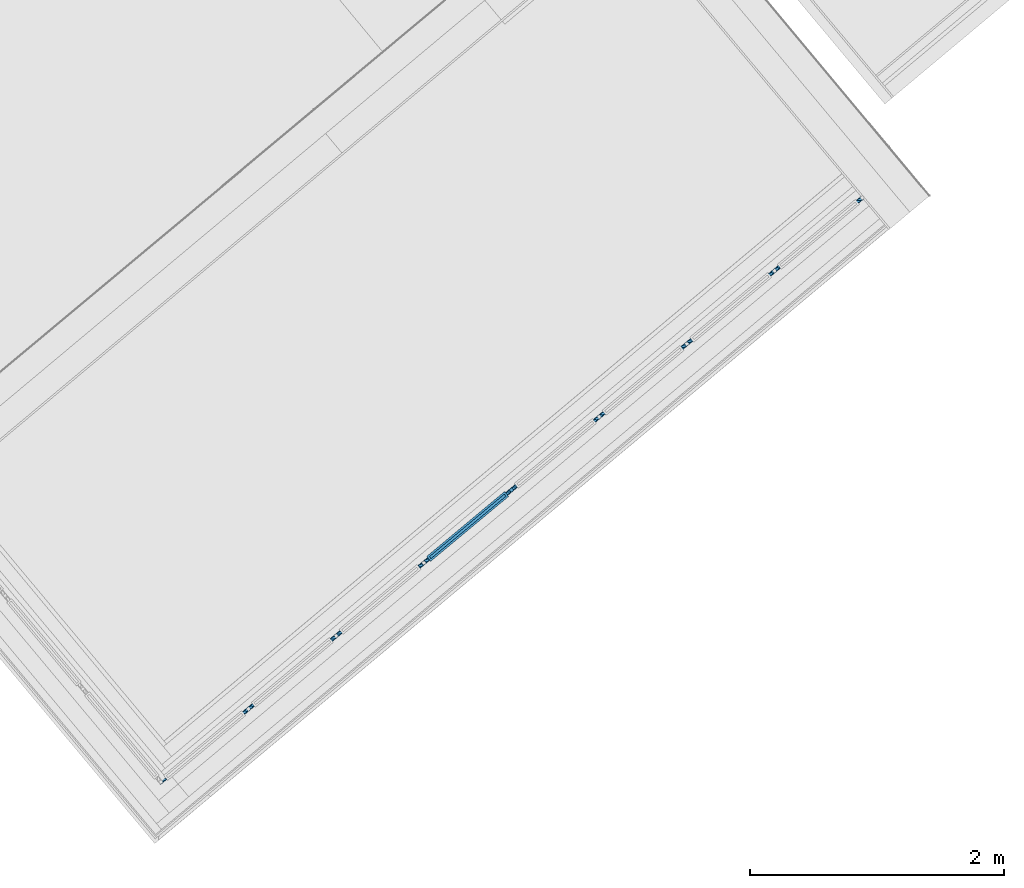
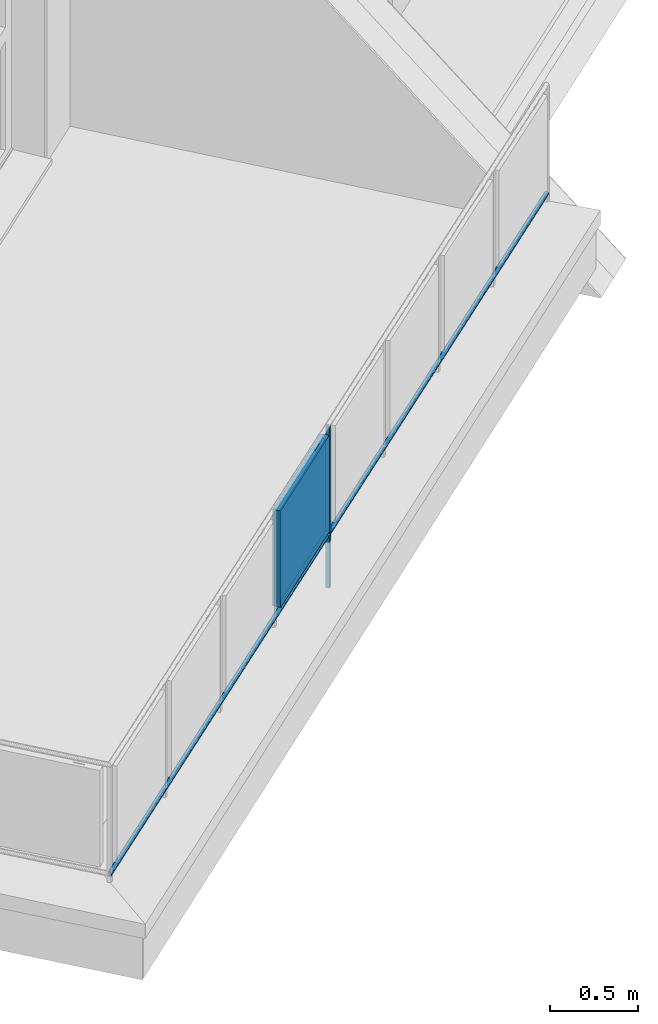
# One storey, part 15 of 50: 4 building element parts, 1 element without a shape of its own.
"""IFC4 building model written with IfcOpenShell, lengths in metres."""

import ifcopenshell
import ifcopenshell.guid

model = None  # the IFC model being written
_history = None  # IfcOwnerHistory: only IFC2X3 demands one
_inside = {}  # id of a spatial element -> (the spatial element, [elements in it])
_under = {}  # id of a project, library or spatial element -> (it, [spatial elements below it])
_declared = {}  # id of a project -> (the project, [libraries it declares])
_typed = {}  # id of a type object -> (the type object, [elements of that type])
_made_of = {}  # id of a material, layer set ... -> (it, [elements and type objects made of it])


def new_model(schema):
    """Start an empty IFC model of exactly this schema.

    Asked for "IFC4X3", IfcOpenShell would pick the latest addendum, in which some entities
    have other attributes; the version numbers below select the first issue.
    IFC2X3 requires an IfcOwnerHistory on every rooted entity: one is made here for all.
    """
    global model, _history
    if schema == "IFC4X3":
        model = ifcopenshell.file(schema_version=(4, 3, 0, 0))
    else:
        model = ifcopenshell.file(schema=schema)
    _inside.clear()
    _under.clear()
    _declared.clear()
    _typed.clear()
    _made_of.clear()
    _history = None
    if model.schema == "IFC2X3":
        org = make("IfcOrganization", Name="unknown")
        user = make(
            "IfcPersonAndOrganization",
            ThePerson=make("IfcPerson", FamilyName="unknown"),
            TheOrganization=org,
        )
        app = make(
            "IfcApplication",
            ApplicationDeveloper=org,
            Version="unknown",
            ApplicationFullName="unknown",
            ApplicationIdentifier="unknown",
        )
        _history = make(
            "IfcOwnerHistory",
            OwningUser=user,
            OwningApplication=app,
            ChangeAction="ADDED",
            CreationDate=0,
        )
    return model


def make(cls, **values):
    """One entity of the class cls with the attributes given. An attribute that is None is left unset."""
    return model.create_entity(
        cls, **{name: value for name, value in values.items() if value is not None}
    )


def entity(cls, *values):
    """Any entity or typed value of the class cls, its attributes in the order of the schema. None: left unset."""
    e = model.create_entity(cls)
    for i, value in enumerate(values):
        if value is not None:
            e[i] = value
    return e


def rooted(cls, **values):
    """An entity with a GlobalId (a new one), such as an element, a storey or a relation."""
    return make(cls, GlobalId=ifcopenshell.guid.new(), OwnerHistory=_history, **values)


def si_unit(unit_type, name, prefix=None):
    """IfcSIUnit, for example si_unit("LENGTHUNIT", "METRE", prefix="MILLI")."""
    return make("IfcSIUnit", UnitType=unit_type, Prefix=prefix, Name=name)


def converted_unit(unit_type, name, factor, base, dimensions=None, offset=None):
    """IfcConversionBasedUnit, such as the inch: factor (a typed value) times the base unit."""
    return make(
        "IfcConversionBasedUnit"
        if offset is None
        else "IfcConversionBasedUnitWithOffset",
        ConversionOffset=offset,
        Dimensions=None
        if dimensions is None
        else entity("IfcDimensionalExponents", *dimensions),
        UnitType=unit_type,
        Name=name,
        ConversionFactor=make(
            "IfcMeasureWithUnit", ValueComponent=factor, UnitComponent=base
        ),
    )


def derived_unit(unit_type, elements):
    """IfcDerivedUnit: a product of units, each with its exponent."""
    return make(
        "IfcDerivedUnit",
        Elements=[
            make("IfcDerivedUnitElement", Unit=unit, Exponent=power)
            for unit, power in elements
        ],
        UnitType=unit_type,
    )


def assignment(units):
    """IfcUnitAssignment: the units of a project."""
    return None if units is None else make("IfcUnitAssignment", Units=units)


def point(xyz):
    """IfcCartesianPoint."""
    return None if xyz is None else make("IfcCartesianPoint", Coordinates=xyz)


def direction(xyz):
    """IfcDirection."""
    return None if xyz is None else make("IfcDirection", DirectionRatios=xyz)


def frame(location, z_axis=None, x_axis=None):
    """IfcAxis2Placement3D, a coordinate frame: its origin and axes. An axis left out is left unset."""
    return make(
        "IfcAxis2Placement3D",
        Location=point(location),
        Axis=direction(z_axis),
        RefDirection=direction(x_axis),
    )


def origin_with_axes():
    """The frame at (0, 0, 0) with the z axis (0, 0, 1) and the x axis (1, 0, 0) written out."""
    return frame((0.0, 0.0, 0.0), z_axis=(0.0, 0.0, 1.0), x_axis=(1.0, 0.0, 0.0))


def place(relative_to, where):
    """IfcLocalPlacement: puts the frame where relative to a parent placement (None: the world)."""
    return make(
        "IfcLocalPlacement", PlacementRelTo=relative_to, RelativePlacement=where
    )


def context(
    kind, dimensions, precision=None, world=None, true_north=None, identifier=None
):
    """IfcGeometricRepresentationContext, for example the 3D "Model" context."""
    return make(
        "IfcGeometricRepresentationContext",
        ContextIdentifier=identifier,
        ContextType=kind,
        CoordinateSpaceDimension=dimensions,
        Precision=precision,
        WorldCoordinateSystem=world,
        TrueNorth=true_north,
    )


def subcontext(parent, identifier, kind, view, scale=None):
    """IfcGeometricRepresentationSubContext, for example "Body" below "Model"."""
    return make(
        "IfcGeometricRepresentationSubContext",
        ContextIdentifier=identifier,
        ContextType=kind,
        ParentContext=parent,
        TargetScale=scale,
        TargetView=view,
    )


def project(units=None, contexts=None):
    """IfcProject with its units and contexts."""
    return rooted(
        "IfcProject",
        Name="project",
        RepresentationContexts=contexts,
        UnitsInContext=assignment(units),
    )


def spatial(cls, under=None, at=None, **own):
    """A site, building, storey or space (cls), placed at a placement, below another one or the project."""
    s = rooted(cls, ObjectPlacement=at, **own)
    if under is not None:
        _under.setdefault(under.id(), (under, []))[1].append(s)
    return s


def point_list(points):
    """IfcCartesianPointList2D or 3D."""
    cls = (
        "IfcCartesianPointList2D" if len(points[0]) == 2 else "IfcCartesianPointList3D"
    )
    return make(cls, CoordList=points)


def polygons(points, faces, closed=None, point_numbers=None):
    """IfcPolygonalFaceSet: a face is its outer loop, then its inner loops; points numbered from 1."""
    made = []
    for loops in faces:
        if len(loops) == 1:
            made.append(make("IfcIndexedPolygonalFace", CoordIndex=loops[0]))
        else:
            made.append(
                make(
                    "IfcIndexedPolygonalFaceWithVoids",
                    CoordIndex=loops[0],
                    InnerCoordIndices=loops[1:],
                )
            )
    return make(
        "IfcPolygonalFaceSet",
        Coordinates=point_list(points),
        Closed=closed,
        Faces=made,
        PnIndex=point_numbers,
    )


def shape(context_of_items, identifier, shape_type, items):
    """IfcShapeRepresentation: the items that make up one representation, for example the "Body"."""
    return make(
        "IfcShapeRepresentation",
        ContextOfItems=context_of_items,
        RepresentationIdentifier=identifier,
        RepresentationType=shape_type,
        Items=items,
    )


def material(Name=None, Category=None):
    """IfcMaterial."""
    return make("IfcMaterial", Name=Name, Category=Category)


def made_of(thing, what):
    """Note that an element or type object is made of a material, layer set ...; save() writes the relation."""
    if what is not None:
        _made_of.setdefault(what.id(), (what, []))[1].append(thing)
    return thing


def type_object(cls, material=None, **own):
    """A type object (cls), such as IfcWallType, which elements share."""
    return made_of(rooted(cls, **own), material)


def element(
    cls,
    number,
    at=None,
    inside=None,
    cuts=None,
    type_object=None,
    material=None,
    context=None,
    identifier="Body",
    shape_type=None,
    held_by="IfcProductDefinitionShape",
    body=None,
    shapes=None,
    **own,
):
    """One element of the class cls, such as IfcWall. Its Tag is "e" and its number.

    at: its placement. inside: the storey or other place that contains it. cuts: it is an
    opening in that element (IfcRelVoidsElement). A single representation is given by context,
    identifier, shape_type and body (its items); several are given by shapes. held_by: the class
    of the entity that holds the representations. save() writes the other relations.
    """
    e = rooted(cls, Tag="e%d" % number, ObjectPlacement=at, **own)
    if body is not None:
        shapes = [shape(context, identifier, shape_type, body)]
    if shapes is not None:
        e.Representation = make(held_by, Representations=shapes)
    if inside is not None:
        _inside.setdefault(inside.id(), (inside, []))[1].append(e)
    if cuts is not None:
        rooted(
            "IfcRelVoidsElement", RelatingBuildingElement=cuts, RelatedOpeningElement=e
        )
    if type_object is not None:
        _typed.setdefault(type_object.id(), (type_object, []))[1].append(e)
    return made_of(e, material)


def aggregate(whole, parts):
    """IfcRelAggregates: a whole, such as a stair, and the parts it consists of."""
    return rooted("IfcRelAggregates", RelatingObject=whole, RelatedObjects=parts)


def save(model, path):
    """Write the relations noted so far, then the file.

    IfcRelAggregates (storeys below a building ...), IfcRelContainedInSpatialStructure (elements
    in a storey), IfcRelDefinesByType, IfcRelAssociatesMaterial and IfcRelDeclares: one each for
    every whole, place, type object, material and project.
    """
    for whole, parts in _under.values():
        aggregate(whole, parts)
    for where, things in _inside.values():
        rooted(
            "IfcRelContainedInSpatialStructure",
            RelatedElements=things,
            RelatingStructure=where,
        )
    for kind, things in _typed.values():
        rooted("IfcRelDefinesByType", RelatedObjects=things, RelatingType=kind)
    for what, things in _made_of.values():
        rooted("IfcRelAssociatesMaterial", RelatedObjects=things, RelatingMaterial=what)
    for by, libraries in _declared.values():
        rooted("IfcRelDeclares", RelatingContext=by, RelatedDefinitions=libraries)
    model.write(path)


model = new_model("IFC4")

# Units and contexts
model_context = context("Model", 3, precision=1e-05, world=origin_with_axes(), true_north=direction((0.0, 1.0)))
body_context = subcontext(model_context, "Body", "Model", "MODEL_VIEW")
ifc_project = project(units=[si_unit("LENGTHUNIT", "METRE"), si_unit("AREAUNIT", "SQUARE_METRE"), si_unit("VOLUMEUNIT", "CUBIC_METRE"), converted_unit("PLANEANGLEUNIT", "DEGREE", entity("IfcPlaneAngleMeasure", 0.0174532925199), si_unit("PLANEANGLEUNIT", "RADIAN"), dimensions=[0, 0, 0, 0, 0, 0, 0]), converted_unit("TIMEUNIT", "Year", entity("IfcTimeMeasure", 31556926.0), si_unit("TIMEUNIT", "SECOND"), dimensions=[0, 0, 1, 0, 0, 0, 0]), si_unit("MASSUNIT", "GRAM", prefix="KILO"), si_unit("THERMODYNAMICTEMPERATUREUNIT", "DEGREE_CELSIUS"), si_unit("LUMINOUSINTENSITYUNIT", "LUMEN"), si_unit("ENERGYUNIT", "JOULE", prefix="MEGA"), derived_unit("THERMALCONDUCTANCEUNIT", [(si_unit("POWERUNIT", "WATT"), 1), (si_unit("LENGTHUNIT", "METRE"), -1), (si_unit("THERMODYNAMICTEMPERATUREUNIT", "KELVIN"), -1)]), derived_unit("SPECIFICHEATCAPACITYUNIT", [(si_unit("ENERGYUNIT", "JOULE"), 1), (si_unit("MASSUNIT", "GRAM", prefix="KILO"), -1), (si_unit("THERMODYNAMICTEMPERATUREUNIT", "KELVIN"), -1)]), derived_unit("MASSDENSITYUNIT", [(si_unit("MASSUNIT", "GRAM", prefix="KILO"), 1), (si_unit("VOLUMEUNIT", "CUBIC_METRE"), -1)])], contexts=[model_context])

# Site, building, storey, space
site_placement = place(None, frame((-0.00153261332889, -0.00661245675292, 0.0), z_axis=(0.0, 0.0, 1.0), x_axis=(1.0, 0.0, 0.0)))
site = spatial("IfcSite", under=ifc_project, at=site_placement, Name="Gelände", CompositionType="ELEMENT")
building_placement = place(site_placement, origin_with_axes())
building = spatial("IfcBuilding", under=site, at=building_placement, Name="Gebäude", CompositionType="ELEMENT")
storey_placement = place(building_placement, frame((0.0, 0.0, 8.66), z_axis=(0.0, 0.0, 1.0), x_axis=(1.0, 0.0, 0.0)))
storey = spatial("IfcBuildingStorey", under=building, at=storey_placement, Name="DG2", CompositionType="ELEMENT", Elevation=8.66)
space_placement = place(storey_placement, frame((2.45868563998, 17.3922711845, 0.22), z_axis=(0.0, 0.0, 1.0), x_axis=(-0.766948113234, -0.641709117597, 0.0)))
space = spatial("IfcSpace", under=storey, at=space_placement, CompositionType="ELEMENT", PredefinedType="NOTDEFINED")

# Railing, building element parts
railing_type = type_object("IfcRailingType", Name="Geländerart", PredefinedType="NOTDEFINED")
railing_placement = place(space_placement, frame((7.13717596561, 0.00077071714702, 0.16), z_axis=(0.0, 0.0, 1.0), x_axis=(-0.766948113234, 0.641709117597, 0.0)))
railing = element("IfcRailing", 1, at=railing_placement, inside=space, type_object=railing_type, Name="Geländer - 001", PredefinedType="NOTDEFINED")
ifc_material_1 = material(Name="Aluminium")
building_element_part_1_placement = place(railing_placement, origin_with_axes())
building_element_part_1 = element("IfcBuildingElementPart", 2, at=building_element_part_1_placement, material=ifc_material_1, Name="Aluminium", PredefinedType="NOTDEFINED", context=body_context, shape_type="Tessellation", body=[
    polygons([(1.80279568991, -2.21040989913, 0.07), (1.80276676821, -2.21073055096, 0.072604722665), (7.31327435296, 2.37859456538, 0.072604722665), (7.31312851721, 2.37876967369, 0.07), (1.80276676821, -2.21073055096, 0.067395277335), (1.80268088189, -2.21168276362, 0.0648696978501), (1.80254064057, -2.21323760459, 0.0625), (1.80235030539, -2.21534783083, 0.0603581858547), (1.80211565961, -2.21794932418, 0.0585093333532), (1.80184383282, -2.22096303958, 0.0570096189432), (1.80154308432, -2.22429740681, 0.0559046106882), (1.80122255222, -2.22785111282, 0.0552278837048), (1.80089197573, -2.23151618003, 0.055), (1.80056139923, -2.23518124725, 0.0552278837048), (1.80024086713, -2.23873495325, 0.0559046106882), (1.79994011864, -2.24206932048, 0.0570096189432), (1.79966829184, -2.24508303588, 0.0585093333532), (1.79943364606, -2.24768452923, 0.0603581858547), (1.79924331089, -2.24979475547, 0.0625), (1.79910306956, -2.25134959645, 0.0648696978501), (1.79901718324, -2.2523018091, 0.067395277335), (1.79898826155, -2.25262246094, 0.07), (1.79901718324, -2.2523018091, 0.072604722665), (1.79910306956, -2.25134959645, 0.0751303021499), (1.79924331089, -2.24979475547, 0.0775), (1.79943364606, -2.24768452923, 0.0796418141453), (1.79966829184, -2.24508303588, 0.0814906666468), (1.79994011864, -2.24206932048, 0.0829903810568), (1.80024086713, -2.23873495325, 0.0840953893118), (1.80056139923, -2.23518124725, 0.0847721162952), (1.80089197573, -2.23151618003, 0.085), (1.80122255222, -2.22785111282, 0.0847721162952), (1.80154308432, -2.22429740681, 0.0840953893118), (1.80184383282, -2.22096303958, 0.0829903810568), (1.80211565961, -2.21794932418, 0.0814906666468), (1.80235030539, -2.21534783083, 0.0796418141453), (1.80254064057, -2.21323760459, 0.0775), (1.80268088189, -2.21168276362, 0.0751303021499), (7.31370742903, 2.37807456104, 0.0751303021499), (7.31441458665, 2.37722546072, 0.0775), (7.31537433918, 2.37607306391, 0.0796418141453), (7.31655752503, 2.37465238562, 0.0814906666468), (7.31792819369, 2.37300659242, 0.0829903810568), (7.31944469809, 2.37118569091, 0.0840953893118), (7.32106096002, 2.36924500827, 0.0847721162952), (7.32272787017, 2.36724351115, 0.085), (7.32439478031, 2.36524201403, 0.0847721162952), (7.32601104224, 2.36330133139, 0.0840953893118), (7.32752754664, 2.36148042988, 0.0829903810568), (7.3288982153, 2.35983463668, 0.0814906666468), (7.33008140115, 2.35841395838, 0.0796418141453), (7.33104115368, 2.35726156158, 0.0775), (7.3317483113, 2.35641246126, 0.0751303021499), (7.33218138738, 2.35589245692, 0.072604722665), (7.33232722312, 2.35571734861, 0.07), (7.33218138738, 2.35589245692, 0.067395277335), (7.3317483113, 2.35641246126, 0.0648696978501), (7.33104115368, 2.35726156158, 0.0625), (7.33008140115, 2.35841395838, 0.0603581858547), (7.3288982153, 2.35983463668, 0.0585093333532), (7.32752754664, 2.36148042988, 0.0570096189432), (7.32601104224, 2.36330133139, 0.0559046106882), (7.32439478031, 2.36524201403, 0.0552278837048), (7.32272787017, 2.36724351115, 0.055), (7.32106096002, 2.36924500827, 0.0552278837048), (7.31944469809, 2.37118569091, 0.0559046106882), (7.31792819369, 2.37300659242, 0.0570096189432), (7.31655752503, 2.37465238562, 0.0585093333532), (7.31537433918, 2.37607306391, 0.0603581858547), (7.31441458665, 2.37722546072, 0.0625), (7.31370742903, 2.37807456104, 0.0648696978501), (7.31327435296, 2.37859456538, 0.067395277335)], [[[1, 2, 3, 4]], [[1, 5, 6, 7, 8, 9, 10, 11, 12, 13, 14, 15, 16, 17, 18, 19, 20, 21, 22, 23, 24, 25, 26, 27, 28, 29, 30, 31, 32, 33, 34, 35, 36, 37, 38, 2]], [[2, 38, 39, 3]], [[4, 3, 39, 40, 41, 42, 43, 44, 45, 46, 47, 48, 49, 50, 51, 52, 53, 54, 55, 56, 57, 58, 59, 60, 61, 62, 63, 64, 65, 66, 67, 68, 69, 70, 71, 72]], [[5, 1, 4, 72]], [[6, 5, 72, 71]], [[7, 6, 71, 70]], [[8, 7, 70, 69]], [[9, 8, 69, 68]], [[10, 9, 68, 67]], [[11, 10, 67, 66]], [[12, 11, 66, 65]], [[13, 12, 65, 64]], [[14, 13, 64, 63]], [[15, 14, 63, 62]], [[16, 15, 62, 61]], [[17, 16, 61, 60]], [[18, 17, 60, 59]], [[19, 18, 59, 58]], [[20, 19, 58, 57]], [[21, 20, 57, 56]], [[22, 21, 56, 55]], [[23, 22, 55, 54]], [[24, 23, 54, 53]], [[25, 24, 53, 52]], [[26, 25, 52, 51]], [[27, 26, 51, 50]], [[28, 27, 50, 49]], [[29, 28, 49, 48]], [[30, 29, 48, 47]], [[31, 30, 47, 46]], [[32, 31, 46, 45]], [[33, 32, 45, 44]], [[34, 33, 44, 43]], [[35, 34, 43, 42]], [[36, 35, 42, 41]], [[37, 36, 41, 40]], [[38, 37, 40, 39]]], closed=True),
])
ifc_material_2 = material(Name="Profilit")
building_element_part_2_placement = place(railing_placement, origin_with_axes())
building_element_part_2 = element("IfcBuildingElementPart", 3, at=building_element_part_2_placement, material=ifc_material_2, Name="Profilit", PredefinedType="NOTDEFINED", context=body_context, shape_type="Tessellation", body=[
    polygons([(4.50546364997, 0.0339505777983, 0.135), (3.91512757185, -0.457699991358, 0.135), (3.91512757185, -0.457699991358, 0.775), (4.50546364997, 0.0339505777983, 0.775), (3.92792670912, -0.473068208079, 0.135), (4.51826278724, 0.0185823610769, 0.135), (3.92792670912, -0.473068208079, 0.775), (4.51826278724, 0.0185823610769, 0.775)], [[[1, 2, 3, 4]], [[5, 2, 1, 6]], [[7, 3, 2, 5]], [[4, 3, 7, 8]], [[1, 4, 8, 6]], [[7, 5, 6, 8]]], closed=True),
])
building_element_part_3_placement = place(railing_placement, origin_with_axes())
building_element_part_3 = element("IfcBuildingElementPart", 4, at=building_element_part_3_placement, material=ifc_material_1, Name="Aluminium", PredefinedType="NOTDEFINED", context=body_context, shape_type="Tessellation", body=[
    polygons([(3.98524216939, -0.40906673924, 0.12), (4.03903092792, -0.364269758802, 0.12), (4.03903092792, -0.364269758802, 0.095), (3.98524216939, -0.40906673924, 0.095), (3.98844195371, -0.41290879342, 0.12), (4.04223071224, -0.368111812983, 0.12), (4.04223071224, -0.368111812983, 0.095), (3.98844195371, -0.41290879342, 0.095)], [[[1, 2, 3, 4]], [[5, 6, 2, 1]], [[2, 6, 7, 3]], [[4, 3, 7, 8]], [[1, 4, 8, 5]], [[8, 7, 6, 5]]], closed=True),
    polygons([(4.44494840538, -0.0262088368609, 0.79), (4.39115964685, -0.0710058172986, 0.79), (4.39115964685, -0.0710058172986, 0.795), (4.44494840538, -0.0262088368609, 0.795), (4.44814818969, -0.0300508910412, 0.79), (4.39435943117, -0.074847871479, 0.79), (4.39435943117, -0.074847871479, 0.795), (4.44814818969, -0.0300508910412, 0.795)], [[[1, 2, 3, 4]], [[5, 6, 2, 1]], [[2, 6, 7, 3]], [[4, 3, 7, 8]], [[1, 4, 8, 5]], [[8, 7, 6, 5]]], closed=True),
    polygons([(3.92599989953, -0.494193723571, 0.12), (3.89400205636, -0.455773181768, 0.12), (4.50739045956, 0.0550760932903, 0.12), (4.53938830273, 0.0166555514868, 0.12), (3.94136811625, -0.481394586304, 0.14), (3.9317687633, -0.469868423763, 0.14), (3.92792670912, -0.473068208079, 0.135), (3.91512757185, -0.457699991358, 0.135), (3.91896962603, -0.454500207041, 0.14), (3.90937027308, -0.4429740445, 0.14), (4.49202224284, 0.0422769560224, 0.14), (4.49202224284, 0.0422769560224, 0.77), (3.90937027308, -0.4429740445, 0.77), (3.90937027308, -0.4429740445, 0.14), (3.89400205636, -0.455773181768, 0.12), (3.89400205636, -0.455773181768, 0.79), (4.50739045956, 0.0550760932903, 0.79), (4.53938830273, 0.0166555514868, 0.79), (3.92599989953, -0.494193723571, 0.79), (3.92599989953, -0.494193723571, 0.12), (3.94136811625, -0.481394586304, 0.14), (3.94136811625, -0.481394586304, 0.77), (4.52402008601, 0.00385641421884, 0.77), (4.52402008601, 0.00385641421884, 0.14), (4.51442073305, 0.0153825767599, 0.14), (4.51442073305, 0.0153825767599, 0.77), (3.9317687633, -0.469868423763, 0.77), (3.9317687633, -0.469868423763, 0.14), (3.92792670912, -0.473068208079, 0.135), (3.92792670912, -0.473068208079, 0.775), (4.51826278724, 0.0185823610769, 0.775), (4.51826278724, 0.0185823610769, 0.135), (4.50546364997, 0.0339505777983, 0.135), (4.50546364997, 0.0339505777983, 0.775), (3.91512757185, -0.457699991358, 0.775), (3.91512757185, -0.457699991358, 0.135), (3.91896962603, -0.454500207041, 0.14), (3.91896962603, -0.454500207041, 0.77), (4.50162159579, 0.0307507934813, 0.77), (4.50162159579, 0.0307507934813, 0.14)], [[[1, 2, 3, 4]], [[1, 5, 6, 7, 8, 9, 10, 2]], [[2, 10, 11, 12, 13, 14, 15, 16, 17, 3]], [[4, 3, 17, 18]], [[5, 1, 4, 18, 19, 20, 21, 22, 23, 24]], [[6, 5, 24, 25]], [[7, 6, 25, 26, 27, 28, 29, 30, 31, 32]], [[8, 7, 32, 33]], [[9, 8, 33, 34, 35, 36, 37, 38, 39, 40]], [[10, 9, 40, 11]], [[11, 40, 39, 12]], [[12, 39, 38, 13]], [[13, 38, 37, 14]], [[20, 15, 14, 37, 36, 29, 28, 21]], [[19, 16, 15, 20]], [[18, 17, 16, 19]], [[27, 22, 21, 28]], [[26, 23, 22, 27]], [[25, 24, 23, 26]], [[35, 30, 29, 36]], [[34, 31, 30, 35]], [[33, 32, 31, 34]]], closed=True),
])
building_element_part_4_placement = place(railing_placement, origin_with_axes())
building_element_part_4 = element("IfcBuildingElementPart", 5, at=building_element_part_4_placement, material=ifc_material_1, Name="Aluminium", PredefinedType="NOTDEFINED", context=body_context, shape_type="Tessellation", body=[
    polygons([(4.57941451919, 0.0662579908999, -0.3), (4.5634155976, 0.0854682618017, -0.3), (4.5634155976, 0.0854682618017, 0.82), (4.57941451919, 0.0662579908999, 0.82), (4.56020424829, 0.050259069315, -0.3), (4.5442053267, 0.0694693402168, -0.3), (4.5442053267, 0.0694693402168, 0.82), (4.56020424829, 0.050259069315, 0.82)], [[[1, 2, 3, 4]], [[1, 5, 6, 2]], [[2, 6, 7, 3]], [[4, 3, 7, 8]], [[5, 1, 4, 8]], [[6, 5, 8, 7]]], closed=True),
])
aggregate(railing, [building_element_part_1, building_element_part_2, building_element_part_3, building_element_part_4])

save(model, "model.ifc")
